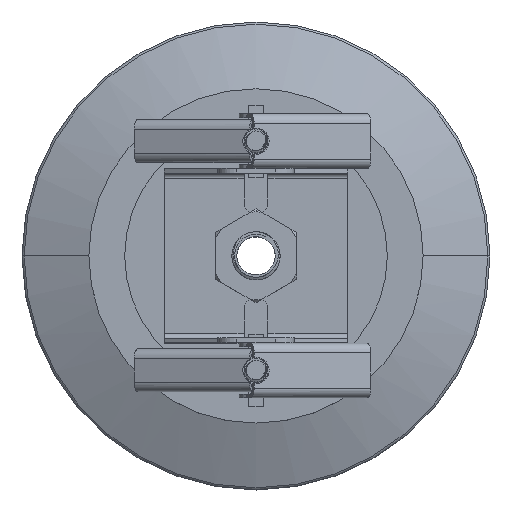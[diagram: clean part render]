
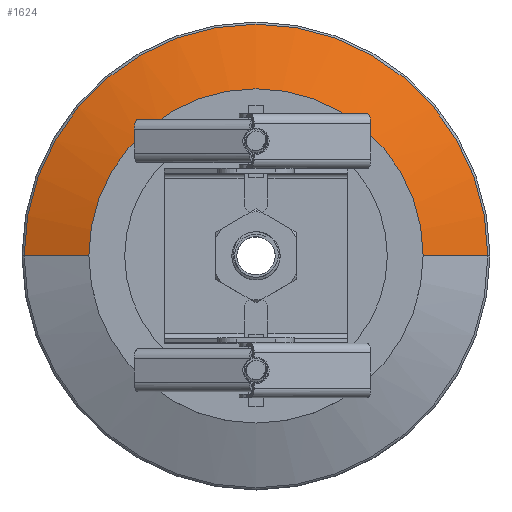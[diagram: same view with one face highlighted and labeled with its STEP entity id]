
A CAD part, top view. The second image highlights one B-rep face of the part: STEP entity #1624.
In plain terms, the highlighted toroidal (fillet/blend) face has major radius 0.141 mm and minor radius 112.5 mm.
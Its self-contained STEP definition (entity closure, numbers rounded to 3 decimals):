
#47 = ORIENTED_EDGE ( 'NONE', *, *, #6651, .F. ) ;
#279 = CARTESIAN_POINT ( 'NONE',  ( -0.141, 0., -98.1 ) ) ;
#1134 = CARTESIAN_POINT ( 'NONE',  ( 48.546, 0., 3.319 ) ) ;
#1337 = CARTESIAN_POINT ( 'NONE',  ( 1.264, 26.163, 11.275 ) ) ;
#1354 = CARTESIAN_POINT ( 'NONE',  ( -48.546, 0., 3.319 ) ) ;
#1405 = CARTESIAN_POINT ( 'NONE',  ( 1.536, 22.021, 12.185 ) ) ;
#1485 = CARTESIAN_POINT ( 'NONE',  ( 2.5, 24., 11.751 ) ) ;
#1624 = ADVANCED_FACE ( 'NONE', ( #5376, #28588 ), #2599, .T. ) ;
#1632 = CARTESIAN_POINT ( 'NONE',  ( -0.66, 26.434, 11.215 ) ) ;
#2599 = TOROIDAL_SURFACE ( 'NONE', #25216, -0.141, 112.5 ) ;
#2818 = CARTESIAN_POINT ( 'NONE',  ( 2.5, 24., 11.751 ) ) ;
#3226 = DIRECTION ( 'NONE',  ( -1., 0., 0. ) ) ;
#3280 = ORIENTED_EDGE ( 'NONE', *, *, #8286, .T. ) ;
#3556 = CARTESIAN_POINT ( 'NONE',  ( -0.329, 21.5, 12.299 ) ) ;
#3635 = CARTESIAN_POINT ( 'NONE',  ( 2.375, 24.797, 11.575 ) ) ;
#3805 = CARTESIAN_POINT ( 'NONE',  ( -0.331, 26.5, 11.2 ) ) ;
#3874 = CARTESIAN_POINT ( 'NONE',  ( 2.252, 22.903, 11.992 ) ) ;
#3901 = DIRECTION ( 'NONE',  ( 0., -1., 0. ) ) ;
#3952 = CARTESIAN_POINT ( 'NONE',  ( -2.176, 25.242, 11.478 ) ) ;
#4251 = CARTESIAN_POINT ( 'NONE',  ( 0.332, 26.483, 11.204 ) ) ;
#4799 = DIRECTION ( 'NONE',  ( 0., 0., 1. ) ) ;
#4973 = B_SPLINE_CURVE_WITH_KNOTS ( 'NONE', 3,
 ( #1485, #24881, #17949, #6264, #3635, #20577, #8724, #8562, #29322, #1337, #27020, #27167, #20118, #4251, #13640, #3805, #1632, #15653, #8268, #13335, #25025, #18103, #17647, #3952, #8421, #6104, #15946, #13486 ),
 .UNSPECIFIED., .F., .F.,
 ( 4, 2, 2, 2, 2, 2, 2, 2, 2, 2, 2, 2, 2, 4 ),
 ( 0.006, 0.007, 0.007, 0.008, 0.009, 0.009, 0.01, 0.01, 0.011, 0.012, 0.012, 0.013, 0.013, 0.014 ),
 .UNSPECIFIED. ) ;
#5069 = CARTESIAN_POINT ( 'NONE',  ( 0., 0., -98.1 ) ) ;
#5376 = FACE_BOUND ( 'NONE', #11077, .T. ) ;
#5675 = DIRECTION ( 'NONE',  ( 0., 1., 0. ) ) ;
#6027 = CARTESIAN_POINT ( 'NONE',  ( -1.116, 21.757, 12.243 ) ) ;
#6104 = CARTESIAN_POINT ( 'NONE',  ( -2.436, 24.648, 11.608 ) ) ;
#6183 = CARTESIAN_POINT ( 'NONE',  ( 2.175, 22.758, 12.024 ) ) ;
#6264 = CARTESIAN_POINT ( 'NONE',  ( 2.422, 24.64, 11.61 ) ) ;
#6352 = DIRECTION ( 'NONE',  ( 0., 0., -1. ) ) ;
#6651 = EDGE_CURVE ( 'NONE', #6992, #13426, #18104, .T. ) ;
#6992 = VERTEX_POINT ( 'NONE', #10426 ) ;
#7410 = DIRECTION ( 'NONE',  ( -1., 0., 0. ) ) ;
#7879 = CARTESIAN_POINT ( 'NONE',  ( 1.265, 21.838, 12.225 ) ) ;
#8034 = CARTESIAN_POINT ( 'NONE',  ( 1.118, 21.758, 12.243 ) ) ;
#8268 = CARTESIAN_POINT ( 'NONE',  ( -1.263, 26.163, 11.274 ) ) ;
#8286 = EDGE_CURVE ( 'NONE', #25910, #9343, #12513, .T. ) ;
#8421 = CARTESIAN_POINT ( 'NONE',  ( -2.253, 25.096, 11.51 ) ) ;
#8490 = CARTESIAN_POINT ( 'NONE',  ( 1.662, 22.125, 12.162 ) ) ;
#8562 = CARTESIAN_POINT ( 'NONE',  ( 1.665, 25.872, 11.339 ) ) ;
#8724 = CARTESIAN_POINT ( 'NONE',  ( 2.008, 25.525, 11.415 ) ) ;
#9343 = VERTEX_POINT ( 'NONE', #1134 ) ;
#9623 = ORIENTED_EDGE ( 'NONE', *, *, #17694, .F. ) ;
#10426 = CARTESIAN_POINT ( 'NONE',  ( -2.5, 24., 11.751 ) ) ;
#10497 = EDGE_CURVE ( 'NONE', #13787, #29406, #17976, .T. ) ;
#11077 = EDGE_LOOP ( 'NONE', ( #13264, #47 ) ) ;
#12513 = CIRCLE ( 'NONE', #16459, 112.5 ) ;
#12543 = AXIS2_PLACEMENT_3D ( 'NONE', #29210, #26916, #3226 ) ;
#12641 = CARTESIAN_POINT ( 'NONE',  ( 0.814, 21.63, 12.27 ) ) ;
#12784 = CARTESIAN_POINT ( 'NONE',  ( 2.375, 23.204, 11.926 ) ) ;
#12939 = CARTESIAN_POINT ( 'NONE',  ( 2.484, 23.675, 11.822 ) ) ;
#13107 = CARTESIAN_POINT ( 'NONE',  ( -1.661, 22.125, 12.162 ) ) ;
#13133 = EDGE_LOOP ( 'NONE', ( #9623, #3280, #20589, #23600 ) ) ;
#13264 = ORIENTED_EDGE ( 'NONE', *, *, #15100, .F. ) ;
#13335 = CARTESIAN_POINT ( 'NONE',  ( -1.535, 25.98, 11.315 ) ) ;
#13426 = VERTEX_POINT ( 'NONE', #2818 ) ;
#13486 = CARTESIAN_POINT ( 'NONE',  ( -2.5, 24., 11.751 ) ) ;
#13640 = CARTESIAN_POINT ( 'NONE',  ( 0.168, 26.5, 11.2 ) ) ;
#13787 = VERTEX_POINT ( 'NONE', #26034 ) ;
#15100 = EDGE_CURVE ( 'NONE', #13426, #6992, #4973, .T. ) ;
#15116 = CARTESIAN_POINT ( 'NONE',  ( -2.5, 24., 11.751 ) ) ;
#15414 = CARTESIAN_POINT ( 'NONE',  ( 0.657, 21.582, 12.281 ) ) ;
#15577 = CARTESIAN_POINT ( 'NONE',  ( -2.422, 23.358, 11.892 ) ) ;
#15653 = CARTESIAN_POINT ( 'NONE',  ( -1.119, 26.242, 11.257 ) ) ;
#15946 = CARTESIAN_POINT ( 'NONE',  ( -2.5, 24.322, 11.68 ) ) ;
#16248 = AXIS2_PLACEMENT_3D ( 'NONE', #26020, #4799, #7410 ) ;
#16459 = AXIS2_PLACEMENT_3D ( 'NONE', #279, #5675, #24449 ) ;
#17000 = AXIS2_PLACEMENT_3D ( 'NONE', #22824, #3901, #6352 ) ;
#17647 = CARTESIAN_POINT ( 'NONE',  ( -1.996, 25.515, 11.418 ) ) ;
#17694 = EDGE_CURVE ( 'NONE', #25910, #13787, #29484, .T. ) ;
#17715 = CARTESIAN_POINT ( 'NONE',  ( 0.165, 21.5, 12.299 ) ) ;
#17867 = CARTESIAN_POINT ( 'NONE',  ( 1.894, 22.36, 12.111 ) ) ;
#17949 = CARTESIAN_POINT ( 'NONE',  ( 2.485, 24.322, 11.68 ) ) ;
#17976 = CIRCLE ( 'NONE', #17000, 112.5 ) ;
#18103 = CARTESIAN_POINT ( 'NONE',  ( -1.893, 25.641, 11.39 ) ) ;
#18104 = B_SPLINE_CURVE_WITH_KNOTS ( 'NONE', 3,
 ( #15116, #29386, #24336, #15577, #29238, #26939, #22052, #13107, #24489, #20188, #6027, #27092, #3556, #17715, #22505, #15414, #12641, #8034, #7879, #1405, #8490, #17867, #27237, #6183, #3874, #12784, #24952, #12939, #22348, #20040 ),
 .UNSPECIFIED., .F., .F.,
 ( 4, 2, 2, 2, 2, 2, 2, 2, 2, 2, 2, 2, 2, 2, 4 ),
 ( 0.014, 0.015, 0.015, 0.016, 0.017, 0.017, 0.018, 0.018, 0.019, 0.019, 0.02, 0.02, 0.021, 0.021, 0.022 ),
 .UNSPECIFIED. ) ;
#18787 = DIRECTION ( 'NONE',  ( -1., 0., 0. ) ) ;
#20040 = CARTESIAN_POINT ( 'NONE',  ( 2.5, 24., 11.751 ) ) ;
#20118 = CARTESIAN_POINT ( 'NONE',  ( 0.656, 26.418, 11.218 ) ) ;
#20188 = CARTESIAN_POINT ( 'NONE',  ( -1.263, 21.836, 12.225 ) ) ;
#20577 = CARTESIAN_POINT ( 'NONE',  ( 2.192, 25.246, 11.477 ) ) ;
#20589 = ORIENTED_EDGE ( 'NONE', *, *, #28878, .F. ) ;
#22052 = CARTESIAN_POINT ( 'NONE',  ( -2.006, 22.473, 12.086 ) ) ;
#22348 = CARTESIAN_POINT ( 'NONE',  ( 2.5, 23.839, 11.786 ) ) ;
#22505 = CARTESIAN_POINT ( 'NONE',  ( 0.332, 21.517, 12.295 ) ) ;
#22824 = CARTESIAN_POINT ( 'NONE',  ( 0.141, 0., -98.1 ) ) ;
#22972 = CARTESIAN_POINT ( 'NONE',  ( 5.25, 0., 14.271 ) ) ;
#23600 = ORIENTED_EDGE ( 'NONE', *, *, #10497, .F. ) ;
#24336 = CARTESIAN_POINT ( 'NONE',  ( -2.484, 23.676, 11.822 ) ) ;
#24449 = DIRECTION ( 'NONE',  ( -1., 0., 0. ) ) ;
#24489 = CARTESIAN_POINT ( 'NONE',  ( -1.536, 22.02, 12.185 ) ) ;
#24881 = CARTESIAN_POINT ( 'NONE',  ( 2.5, 24.161, 11.715 ) ) ;
#24952 = CARTESIAN_POINT ( 'NONE',  ( 2.422, 23.358, 11.892 ) ) ;
#25025 = CARTESIAN_POINT ( 'NONE',  ( -1.664, 25.873, 11.338 ) ) ;
#25216 = AXIS2_PLACEMENT_3D ( 'NONE', #5069, #25995, #18787 ) ;
#25335 = CIRCLE ( 'NONE', #12543, 48.546 ) ;
#25910 = VERTEX_POINT ( 'NONE', #22972 ) ;
#25995 = DIRECTION ( 'NONE',  ( 0., 0., -1. ) ) ;
#26020 = CARTESIAN_POINT ( 'NONE',  ( 0., 0., 14.271 ) ) ;
#26034 = CARTESIAN_POINT ( 'NONE',  ( -5.25, 0., 14.271 ) ) ;
#26916 = DIRECTION ( 'NONE',  ( 0., 0., -1. ) ) ;
#26939 = CARTESIAN_POINT ( 'NONE',  ( -2.192, 22.754, 12.024 ) ) ;
#27020 = CARTESIAN_POINT ( 'NONE',  ( 1.12, 26.241, 11.257 ) ) ;
#27092 = CARTESIAN_POINT ( 'NONE',  ( -0.662, 21.567, 12.284 ) ) ;
#27167 = CARTESIAN_POINT ( 'NONE',  ( 0.817, 26.369, 11.229 ) ) ;
#27237 = CARTESIAN_POINT ( 'NONE',  ( 1.997, 22.487, 12.083 ) ) ;
#28588 = FACE_OUTER_BOUND ( 'NONE', #13133, .T. ) ;
#28878 = EDGE_CURVE ( 'NONE', #29406, #9343, #25335, .T. ) ;
#29210 = CARTESIAN_POINT ( 'NONE',  ( 0., 0., 3.319 ) ) ;
#29238 = CARTESIAN_POINT ( 'NONE',  ( -2.375, 23.204, 11.926 ) ) ;
#29322 = CARTESIAN_POINT ( 'NONE',  ( 1.537, 25.978, 11.315 ) ) ;
#29386 = CARTESIAN_POINT ( 'NONE',  ( -2.5, 23.839, 11.786 ) ) ;
#29406 = VERTEX_POINT ( 'NONE', #1354 ) ;
#29484 = CIRCLE ( 'NONE', #16248, 5.25 ) ;
